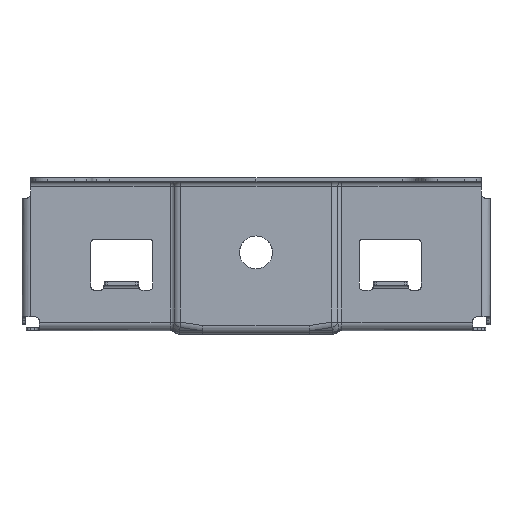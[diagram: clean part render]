
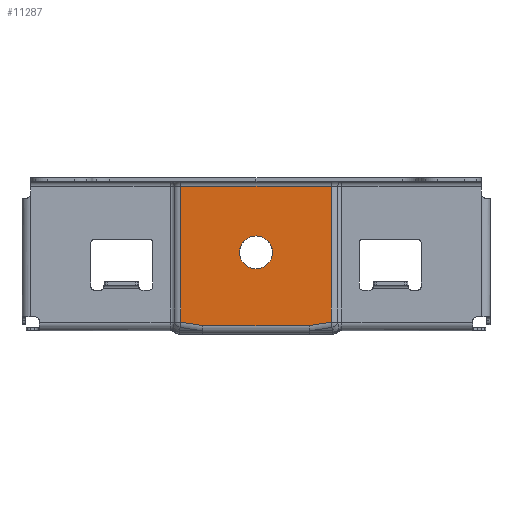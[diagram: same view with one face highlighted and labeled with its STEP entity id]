
A CAD part, left-side view. The second image highlights one B-rep face of the part: STEP entity #11287.
In plain terms, the highlighted planar face has unit normal (-1, 0, 0).
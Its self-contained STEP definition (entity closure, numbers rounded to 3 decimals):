
#1822=CARTESIAN_POINT('Vertex',(-26.9,-738.5,63.263)) ;
#1826=CARTESIAN_POINT('Control Point',(-26.9,-735.691,69.954)) ;
#1827=CARTESIAN_POINT('Control Point',(-26.9,-737.419,68.227)) ;
#1828=CARTESIAN_POINT('Control Point',(-26.9,-738.5,65.852)) ;
#1829=CARTESIAN_POINT('Control Point',(-26.9,-738.5,63.263)) ;
#1830=CARTESIAN_POINT('Vertex',(-26.9,-735.718,69.981)) ;
#1834=CARTESIAN_POINT('Control Point',(-26.9,-729.,72.763)) ;
#1835=CARTESIAN_POINT('Control Point',(-26.9,-731.588,72.763)) ;
#1836=CARTESIAN_POINT('Control Point',(-26.9,-733.963,71.682)) ;
#1837=CARTESIAN_POINT('Control Point',(-26.9,-735.691,69.954)) ;
#1838=CARTESIAN_POINT('Vertex',(-26.9,-729.,72.763)) ;
#1881=CARTESIAN_POINT('Vertex',(-26.9,-729.,53.763)) ;
#1885=CARTESIAN_POINT('Control Point',(-26.9,-735.692,56.572)) ;
#1886=CARTESIAN_POINT('Control Point',(-26.9,-733.964,54.844)) ;
#1887=CARTESIAN_POINT('Control Point',(-26.9,-731.589,53.763)) ;
#1888=CARTESIAN_POINT('Control Point',(-26.9,-729.,53.763)) ;
#1889=CARTESIAN_POINT('Vertex',(-26.9,-735.718,56.546)) ;
#1893=CARTESIAN_POINT('Control Point',(-26.9,-738.5,63.263)) ;
#1894=CARTESIAN_POINT('Control Point',(-26.9,-738.5,60.675)) ;
#1895=CARTESIAN_POINT('Control Point',(-26.9,-737.42,58.3)) ;
#1896=CARTESIAN_POINT('Control Point',(-26.9,-735.692,56.572)) ;
#2281=CARTESIAN_POINT('Control Point',(-26.9,-772.478,22.885)) ;
#2282=CARTESIAN_POINT('Control Point',(-26.9,-772.478,22.888)) ;
#2283=CARTESIAN_POINT('Control Point',(-26.9,-772.478,22.891)) ;
#2284=CARTESIAN_POINT('Control Point',(-26.9,-772.478,22.894)) ;
#2285=CARTESIAN_POINT('Control Point',(-26.9,-772.478,22.897)) ;
#2286=CARTESIAN_POINT('Control Point',(-26.9,-772.478,22.9)) ;
#2287=CARTESIAN_POINT('Vertex',(-26.9,-772.478,22.9)) ;
#2289=CARTESIAN_POINT('Vertex',(-26.9,-772.478,22.885)) ;
#7364=CARTESIAN_POINT('Vertex',(-26.9,-719.5,63.263)) ;
#7368=CARTESIAN_POINT('Control Point',(-26.9,-719.5,63.263)) ;
#7369=CARTESIAN_POINT('Control Point',(-26.9,-719.5,60.675)) ;
#7370=CARTESIAN_POINT('Control Point',(-26.9,-720.581,58.3)) ;
#7371=CARTESIAN_POINT('Control Point',(-26.9,-722.309,56.572)) ;
#7372=CARTESIAN_POINT('Vertex',(-26.9,-722.283,56.546)) ;
#7376=CARTESIAN_POINT('Control Point',(-26.9,-722.309,56.572)) ;
#7377=CARTESIAN_POINT('Control Point',(-26.9,-724.037,54.844)) ;
#7378=CARTESIAN_POINT('Control Point',(-26.9,-726.412,53.763)) ;
#7379=CARTESIAN_POINT('Control Point',(-26.9,-729.,53.763)) ;
#7411=CARTESIAN_POINT('Control Point',(-26.9,-729.,72.763)) ;
#7412=CARTESIAN_POINT('Control Point',(-26.9,-726.413,72.763)) ;
#7413=CARTESIAN_POINT('Control Point',(-26.9,-724.038,71.682)) ;
#7414=CARTESIAN_POINT('Control Point',(-26.9,-722.31,69.954)) ;
#7415=CARTESIAN_POINT('Vertex',(-26.9,-722.283,69.981)) ;
#7419=CARTESIAN_POINT('Control Point',(-26.9,-722.31,69.954)) ;
#7420=CARTESIAN_POINT('Control Point',(-26.9,-720.582,68.227)) ;
#7421=CARTESIAN_POINT('Control Point',(-26.9,-719.5,65.852)) ;
#7422=CARTESIAN_POINT('Control Point',(-26.9,-719.5,63.263)) ;
#7761=CARTESIAN_POINT('Vertex',(-26.9,-685.523,22.9)) ;
#7770=CARTESIAN_POINT('Vertex',(-26.9,-685.523,22.885)) ;
#7774=CARTESIAN_POINT('Control Point',(-26.9,-685.523,22.885)) ;
#7775=CARTESIAN_POINT('Control Point',(-26.9,-685.523,22.888)) ;
#7776=CARTESIAN_POINT('Control Point',(-26.9,-685.523,22.891)) ;
#7777=CARTESIAN_POINT('Control Point',(-26.9,-685.523,22.894)) ;
#7778=CARTESIAN_POINT('Control Point',(-26.9,-685.523,22.897)) ;
#7779=CARTESIAN_POINT('Control Point',(-26.9,-685.523,22.9)) ;
#11142=CARTESIAN_POINT('Line Origine',(-26.9,-772.478,101.4)) ;
#11146=CARTESIAN_POINT('Vertex',(-26.9,-685.523,101.4)) ;
#11148=CARTESIAN_POINT('Vertex',(-26.9,-772.478,101.4)) ;
#11233=CARTESIAN_POINT('Axis2P3D Location',(-26.9,-788.723,15.9)) ;
#11238=CARTESIAN_POINT('Line Origine',(-26.9,-729.,20.9)) ;
#11242=CARTESIAN_POINT('Vertex',(-26.9,-759.737,20.9)) ;
#11244=CARTESIAN_POINT('Vertex',(-26.9,-698.264,20.9)) ;
#11247=CARTESIAN_POINT('Line Origine',(-26.9,-766.108,21.893)) ;
#11252=CARTESIAN_POINT('Line Origine',(-26.9,-772.478,62.15)) ;
#11257=CARTESIAN_POINT('Line Origine',(-26.9,-685.523,62.15)) ;
#11262=CARTESIAN_POINT('Line Origine',(-26.9,-691.893,21.893)) ;
#11143=DIRECTION('Vector Direction',(0.,1.,0.)) ;
#11234=DIRECTION('Axis2P3D Direction',(-1.,0.,0.)) ;
#11235=DIRECTION('Axis2P3D XDirection',(0.,0.,1.)) ;
#11239=DIRECTION('Vector Direction',(0.,-1.,0.)) ;
#11248=DIRECTION('Vector Direction',(0.,-0.988,0.154)) ;
#11253=DIRECTION('Vector Direction',(0.,0.,1.)) ;
#11258=DIRECTION('Vector Direction',(0.,0.,1.)) ;
#11263=DIRECTION('Vector Direction',(0.,0.988,0.154)) ;
#11236=AXIS2_PLACEMENT_3D('Plane Axis2P3D',#11233,#11234,#11235) ;
#11268=ORIENTED_EDGE('',*,*,#11246,.F.) ;
#11269=ORIENTED_EDGE('',*,*,#11251,.T.) ;
#11270=ORIENTED_EDGE('',*,*,#2291,.F.) ;
#11271=ORIENTED_EDGE('',*,*,#11256,.T.) ;
#11272=ORIENTED_EDGE('',*,*,#11150,.F.) ;
#11273=ORIENTED_EDGE('',*,*,#11261,.F.) ;
#11274=ORIENTED_EDGE('',*,*,#7780,.T.) ;
#11275=ORIENTED_EDGE('',*,*,#11266,.F.) ;
#11278=ORIENTED_EDGE('',*,*,#1891,.T.) ;
#11279=ORIENTED_EDGE('',*,*,#7380,.F.) ;
#11280=ORIENTED_EDGE('',*,*,#7374,.F.) ;
#11281=ORIENTED_EDGE('',*,*,#7423,.F.) ;
#11282=ORIENTED_EDGE('',*,*,#7417,.F.) ;
#11283=ORIENTED_EDGE('',*,*,#1840,.T.) ;
#11284=ORIENTED_EDGE('',*,*,#1832,.T.) ;
#11285=ORIENTED_EDGE('',*,*,#1897,.T.) ;
#11286=FACE_BOUND('',#11277,.T.) ;
#11144=VECTOR('Line Direction',#11143,1.) ;
#11240=VECTOR('Line Direction',#11239,1.) ;
#11249=VECTOR('Line Direction',#11248,1.) ;
#11254=VECTOR('Line Direction',#11253,1.) ;
#11259=VECTOR('Line Direction',#11258,1.) ;
#11264=VECTOR('Line Direction',#11263,1.) ;
#11287=ADVANCED_FACE('SHT0016146-\X2\5BBD8F664E3B9A7E9A76540E4FA794A391D1\X0\',(#11276,#11286),#11237,.T.) ;
#1825=B_SPLINE_CURVE_WITH_KNOTS('',3,(#1826,#1827,#1828,#1829),.UNSPECIFIED.,.F.,.U.,(4,4),(8.234,16.467),.UNSPECIFIED.) ;
#1833=B_SPLINE_CURVE_WITH_KNOTS('',3,(#1834,#1835,#1836,#1837),.UNSPECIFIED.,.F.,.U.,(4,4),(0.,8.234),.UNSPECIFIED.) ;
#1884=B_SPLINE_CURVE_WITH_KNOTS('',3,(#1885,#1886,#1887,#1888),.UNSPECIFIED.,.F.,.U.,(4,4),(8.234,16.467),.UNSPECIFIED.) ;
#1892=B_SPLINE_CURVE_WITH_KNOTS('',3,(#1893,#1894,#1895,#1896),.UNSPECIFIED.,.F.,.U.,(4,4),(0.,8.234),.UNSPECIFIED.) ;
#2280=B_SPLINE_CURVE_WITH_KNOTS('',5,(#2281,#2282,#2283,#2284,#2285,#2286),.UNSPECIFIED.,.F.,.U.,(6,6),(2.883,2.906),.UNSPECIFIED.) ;
#7367=B_SPLINE_CURVE_WITH_KNOTS('',3,(#7368,#7369,#7370,#7371),.UNSPECIFIED.,.F.,.U.,(4,4),(0.,8.234),.UNSPECIFIED.) ;
#7375=B_SPLINE_CURVE_WITH_KNOTS('',3,(#7376,#7377,#7378,#7379),.UNSPECIFIED.,.F.,.U.,(4,4),(8.234,16.467),.UNSPECIFIED.) ;
#7410=B_SPLINE_CURVE_WITH_KNOTS('',3,(#7411,#7412,#7413,#7414),.UNSPECIFIED.,.F.,.U.,(4,4),(0.,8.234),.UNSPECIFIED.) ;
#7418=B_SPLINE_CURVE_WITH_KNOTS('',3,(#7419,#7420,#7421,#7422),.UNSPECIFIED.,.F.,.U.,(4,4),(8.234,16.467),.UNSPECIFIED.) ;
#7773=B_SPLINE_CURVE_WITH_KNOTS('',5,(#7774,#7775,#7776,#7777,#7778,#7779),.UNSPECIFIED.,.F.,.U.,(6,6),(2.883,2.906),.UNSPECIFIED.) ;
#1832=EDGE_CURVE('',#1831,#1823,#1825,.T.) ;
#1840=EDGE_CURVE('',#1839,#1831,#1833,.T.) ;
#1891=EDGE_CURVE('',#1890,#1882,#1884,.T.) ;
#1897=EDGE_CURVE('',#1823,#1890,#1892,.T.) ;
#2291=EDGE_CURVE('',#2288,#2290,#2280,.F.) ;
#7374=EDGE_CURVE('',#7365,#7373,#7367,.T.) ;
#7380=EDGE_CURVE('',#7373,#1882,#7375,.T.) ;
#7417=EDGE_CURVE('',#1839,#7416,#7410,.T.) ;
#7423=EDGE_CURVE('',#7416,#7365,#7418,.T.) ;
#7780=EDGE_CURVE('',#7762,#7771,#7773,.F.) ;
#11150=EDGE_CURVE('',#11147,#11149,#11145,.F.) ;
#11246=EDGE_CURVE('',#11243,#11245,#11241,.F.) ;
#11251=EDGE_CURVE('',#11243,#2290,#11250,.T.) ;
#11256=EDGE_CURVE('',#2288,#11149,#11255,.T.) ;
#11261=EDGE_CURVE('',#7762,#11147,#11260,.T.) ;
#11266=EDGE_CURVE('',#11245,#7771,#11265,.T.) ;
#11267=EDGE_LOOP('',(#11268,#11269,#11270,#11271,#11272,#11273,#11274,#11275)) ;
#11277=EDGE_LOOP('',(#11278,#11279,#11280,#11281,#11282,#11283,#11284,#11285)) ;
#11276=FACE_OUTER_BOUND('',#11267,.T.) ;
#11145=LINE('Line',#11142,#11144) ;
#11241=LINE('Line',#11238,#11240) ;
#11250=LINE('Line',#11247,#11249) ;
#11255=LINE('Line',#11252,#11254) ;
#11260=LINE('Line',#11257,#11259) ;
#11265=LINE('Line',#11262,#11264) ;
#11237=PLANE('Plane',#11236) ;
#1823=VERTEX_POINT('',#1822) ;
#1831=VERTEX_POINT('',#1830) ;
#1839=VERTEX_POINT('',#1838) ;
#1882=VERTEX_POINT('',#1881) ;
#1890=VERTEX_POINT('',#1889) ;
#2288=VERTEX_POINT('',#2287) ;
#2290=VERTEX_POINT('',#2289) ;
#7365=VERTEX_POINT('',#7364) ;
#7373=VERTEX_POINT('',#7372) ;
#7416=VERTEX_POINT('',#7415) ;
#7762=VERTEX_POINT('',#7761) ;
#7771=VERTEX_POINT('',#7770) ;
#11147=VERTEX_POINT('',#11146) ;
#11149=VERTEX_POINT('',#11148) ;
#11243=VERTEX_POINT('',#11242) ;
#11245=VERTEX_POINT('',#11244) ;
